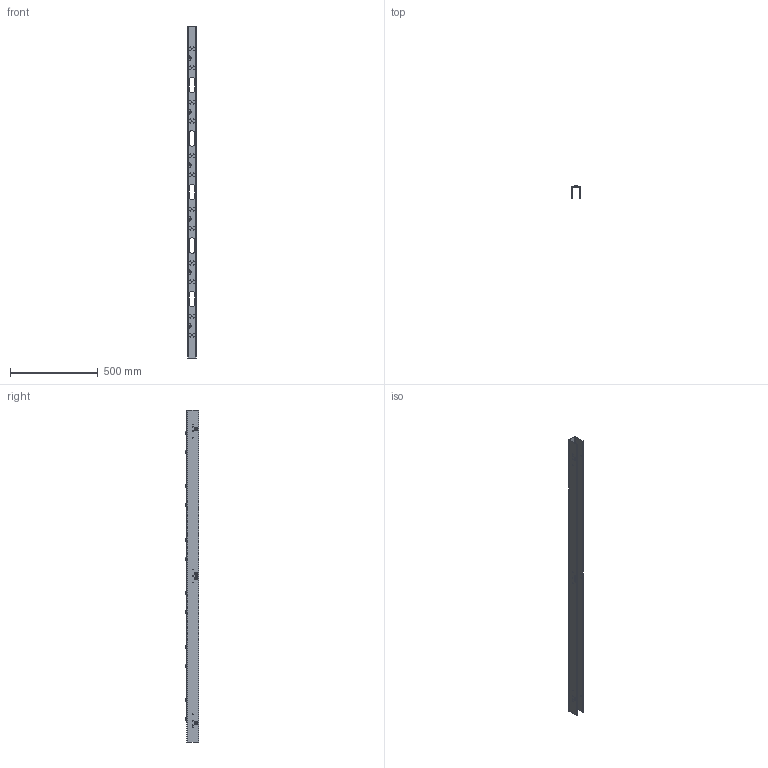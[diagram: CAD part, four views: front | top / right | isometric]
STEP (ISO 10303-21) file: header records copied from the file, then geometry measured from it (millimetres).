
FILE_DESCRIPTION((''),'2;1');
FILE_NAME('D:\Scratch\Ideas\pdp167\PRBTD205.stp', '2005-11-21T12:25:21',('User'),('SDRC'),'I-DEAS Master Series 9','UNIX', 'Yes');
FILE_SCHEMA(('AUTOMOTIVE_DESIGN { 1 0 10303 214 0 1 1 1 }'));
Length unit declared in the file: inch
Products named in the file (1): 87794063
Bounding box: 50 x 74.19 x 1891.41 mm (x, y, z)
Volume: 781437.7 mm3; surface area: 656637.1 mm2
Topology: 1 solids, 1 shells, 401 faces, 1317 edges, 846 vertices
Faces by surface type: bspline 401
Entity records: 15755 total; most frequent: CARTESIAN_POINT 6321, ORIENTED_EDGE 2634, EDGE_CURVE 1317, OVER_RIDING_STYLED_ITEM 878, VERTEX_POINT 846, STYLED_ITEM 694, B_SPLINE_CURVE_WITH_KNOTS 624, QUASI_UNIFORM_CURVE 555
